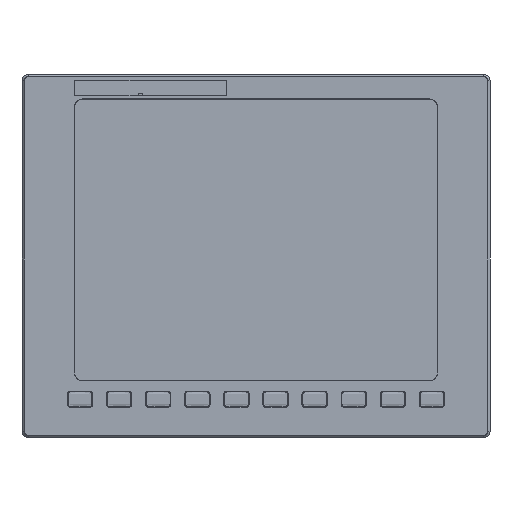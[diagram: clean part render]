
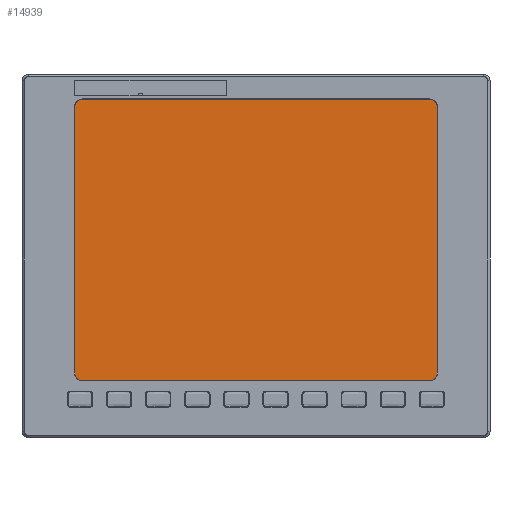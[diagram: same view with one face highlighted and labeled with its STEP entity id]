
A CAD part, top view. The second image highlights one B-rep face of the part: STEP entity #14939.
In plain terms, the highlighted planar face has unit normal (0, 0, 1).
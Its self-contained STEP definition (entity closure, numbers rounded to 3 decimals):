
#95 = EDGE_CURVE ( 'NONE', #19084, #30482, #36936, .T. ) ;
#1359 = DIRECTION ( 'NONE',  ( 0., 0., 1. ) ) ;
#1689 = DIRECTION ( 'NONE',  ( 0., 0., 1. ) ) ;
#2014 = VERTEX_POINT ( 'NONE', #47305 ) ;
#2907 = CARTESIAN_POINT ( 'NONE',  ( -112.8, -81., 1.82 ) ) ;
#3629 = DIRECTION ( 'NONE',  ( 0., 1., 0. ) ) ;
#3894 = CARTESIAN_POINT ( 'NONE',  ( -112.8, -81., 1.82 ) ) ;
#3899 = VERTEX_POINT ( 'NONE', #29391 ) ;
#4283 = CARTESIAN_POINT ( 'NONE',  ( 112.8, -81., 1.82 ) ) ;
#4824 = ORIENTED_EDGE ( 'NONE', *, *, #10368, .T. ) ;
#5174 = DIRECTION ( 'NONE',  ( 1., 0., 0. ) ) ;
#6855 = CARTESIAN_POINT ( 'NONE',  ( -117.8, -76., 1.82 ) ) ;
#8612 = LINE ( 'NONE', #2907, #17334 ) ;
#8809 = EDGE_CURVE ( 'NONE', #22529, #43250, #40550, .T. ) ;
#9102 = ORIENTED_EDGE ( 'NONE', *, *, #95, .T. ) ;
#10299 = AXIS2_PLACEMENT_3D ( 'NONE', #15208, #51258, #31208 ) ;
#10368 = EDGE_CURVE ( 'NONE', #30482, #18629, #8612, .T. ) ;
#11128 = VERTEX_POINT ( 'NONE', #29420 ) ;
#11670 = DIRECTION ( 'NONE',  ( 1., 0., 0. ) ) ;
#12077 = EDGE_CURVE ( 'NONE', #18629, #3899, #23388, .T. ) ;
#12356 = DIRECTION ( 'NONE',  ( 0., 0., 1. ) ) ;
#14939 = ADVANCED_FACE ( 'NONE', ( #21011 ), #20338, .T. ) ;
#15208 = CARTESIAN_POINT ( 'NONE',  ( -112.8, -76., 1.82 ) ) ;
#16173 = CARTESIAN_POINT ( 'NONE',  ( 112.8, 96.8, 1.82 ) ) ;
#17334 = VECTOR ( 'NONE', #30219, 1000. ) ;
#18629 = VERTEX_POINT ( 'NONE', #4283 ) ;
#19084 = VERTEX_POINT ( 'NONE', #6855 ) ;
#19172 = DIRECTION ( 'NONE',  ( 0., -1., 0. ) ) ;
#19603 = CARTESIAN_POINT ( 'NONE',  ( 117.8, -76., 1.82 ) ) ;
#19667 = LINE ( 'NONE', #45987, #42160 ) ;
#20321 = LINE ( 'NONE', #47240, #43448 ) ;
#20338 = PLANE ( 'NONE',  #49575 ) ;
#20594 = LINE ( 'NONE', #19603, #29949 ) ;
#21011 = FACE_OUTER_BOUND ( 'NONE', #48114, .T. ) ;
#21484 = EDGE_CURVE ( 'NONE', #2014, #19084, #20321, .T. ) ;
#22032 = CARTESIAN_POINT ( 'NONE',  ( 112.8, 96.8, 1.82 ) ) ;
#22205 = ORIENTED_EDGE ( 'NONE', *, *, #21484, .T. ) ;
#22529 = VERTEX_POINT ( 'NONE', #50540 ) ;
#23388 = CIRCLE ( 'NONE', #40160, 5. ) ;
#24409 = EDGE_CURVE ( 'NONE', #11128, #2014, #41888, .T. ) ;
#24629 = DIRECTION ( 'NONE',  ( 0., 0., 1. ) ) ;
#28656 = CARTESIAN_POINT ( 'NONE',  ( -112.8, 96.8, 1.82 ) ) ;
#28970 = CARTESIAN_POINT ( 'NONE',  ( 112.8, -76., 1.82 ) ) ;
#29294 = EDGE_CURVE ( 'NONE', #43250, #11128, #19667, .T. ) ;
#29391 = CARTESIAN_POINT ( 'NONE',  ( 117.8, -76., 1.82 ) ) ;
#29420 = CARTESIAN_POINT ( 'NONE',  ( -112.8, 101.8, 1.82 ) ) ;
#29949 = VECTOR ( 'NONE', #3629, 1000. ) ;
#30219 = DIRECTION ( 'NONE',  ( 1., 0., 0. ) ) ;
#30482 = VERTEX_POINT ( 'NONE', #3894 ) ;
#31208 = DIRECTION ( 'NONE',  ( 1., 0., 0. ) ) ;
#32330 = AXIS2_PLACEMENT_3D ( 'NONE', #22032, #1359, #37233 ) ;
#32858 = DIRECTION ( 'NONE',  ( 1., 0., 0. ) ) ;
#33463 = ORIENTED_EDGE ( 'NONE', *, *, #12077, .T. ) ;
#35127 = ORIENTED_EDGE ( 'NONE', *, *, #29294, .T. ) ;
#36936 = CIRCLE ( 'NONE', #10299, 5. ) ;
#37233 = DIRECTION ( 'NONE',  ( 1., 0., 0. ) ) ;
#40160 = AXIS2_PLACEMENT_3D ( 'NONE', #28970, #1689, #5174 ) ;
#40221 = AXIS2_PLACEMENT_3D ( 'NONE', #28656, #24629, #32858 ) ;
#40550 = CIRCLE ( 'NONE', #32330, 5. ) ;
#41888 = CIRCLE ( 'NONE', #40221, 5. ) ;
#41963 = ORIENTED_EDGE ( 'NONE', *, *, #43581, .T. ) ;
#42160 = VECTOR ( 'NONE', #42344, 1000. ) ;
#42344 = DIRECTION ( 'NONE',  ( -1., 0., 0. ) ) ;
#43250 = VERTEX_POINT ( 'NONE', #51199 ) ;
#43448 = VECTOR ( 'NONE', #19172, 1000. ) ;
#43581 = EDGE_CURVE ( 'NONE', #3899, #22529, #20594, .T. ) ;
#45987 = CARTESIAN_POINT ( 'NONE',  ( 112.8, 101.8, 1.82 ) ) ;
#46861 = ORIENTED_EDGE ( 'NONE', *, *, #24409, .T. ) ;
#47183 = ORIENTED_EDGE ( 'NONE', *, *, #8809, .T. ) ;
#47240 = CARTESIAN_POINT ( 'NONE',  ( -117.8, 96.8, 1.82 ) ) ;
#47305 = CARTESIAN_POINT ( 'NONE',  ( -117.8, 96.8, 1.82 ) ) ;
#48114 = EDGE_LOOP ( 'NONE', ( #47183, #35127, #46861, #22205, #9102, #4824, #33463, #41963 ) ) ;
#49575 = AXIS2_PLACEMENT_3D ( 'NONE', #16173, #12356, #11670 ) ;
#50540 = CARTESIAN_POINT ( 'NONE',  ( 117.8, 96.8, 1.82 ) ) ;
#51199 = CARTESIAN_POINT ( 'NONE',  ( 112.8, 101.8, 1.82 ) ) ;
#51258 = DIRECTION ( 'NONE',  ( 0., 0., 1. ) ) ;
